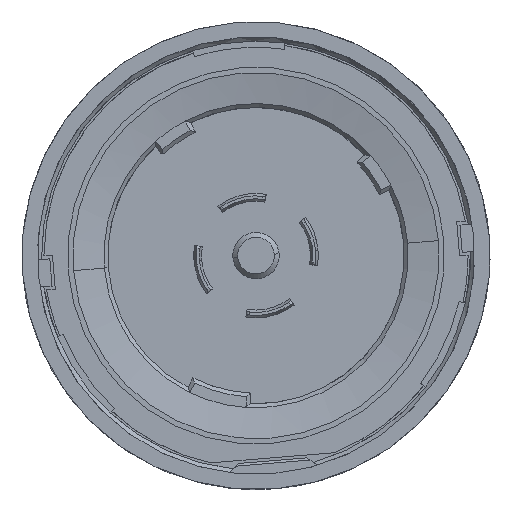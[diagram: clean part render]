
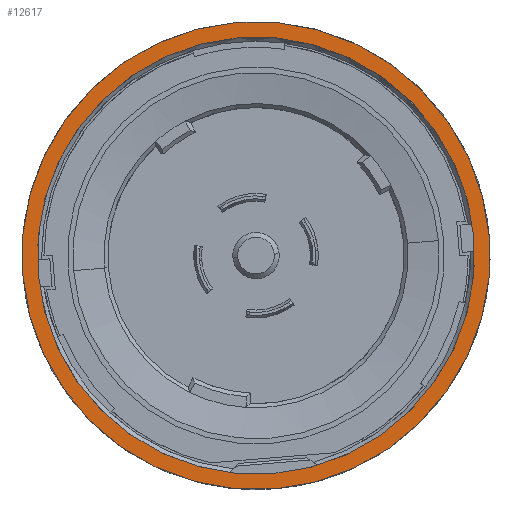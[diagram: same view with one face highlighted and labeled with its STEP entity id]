
A CAD part, front view. The second image highlights one B-rep face of the part: STEP entity #12617.
In plain terms, the highlighted planar face has unit normal (0, -1, 0).
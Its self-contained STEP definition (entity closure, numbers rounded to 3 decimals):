
#448 = VERTEX_POINT ( 'NONE', #11938 ) ;
#878 = CARTESIAN_POINT ( 'NONE',  ( 2.19, -6.4, 43.359 ) ) ;
#930 = DIRECTION ( 'NONE',  ( -0.082, 0., 0.997 ) ) ;
#950 = DIRECTION ( 'NONE',  ( 0., 1., 0. ) ) ;
#1265 = EDGE_LOOP ( 'NONE', ( #13304, #15963 ) ) ;
#1306 = EDGE_CURVE ( 'NONE', #7355, #448, #12338, .T. ) ;
#1336 = AXIS2_PLACEMENT_3D ( 'NONE', #10391, #950, #14605 ) ;
#2789 = VERTEX_POINT ( 'NONE', #7780 ) ;
#2825 = CARTESIAN_POINT ( 'NONE',  ( 2.19, -6.4, 43.359 ) ) ;
#3098 = EDGE_CURVE ( 'NONE', #9785, #2789, #13212, .T. ) ;
#3402 = AXIS2_PLACEMENT_3D ( 'NONE', #3831, #8422, #5706 ) ;
#3831 = CARTESIAN_POINT ( 'NONE',  ( 2.19, -6.4, 43.359 ) ) ;
#4755 = CIRCLE ( 'NONE', #10221, 22.42 ) ;
#4846 = EDGE_CURVE ( 'NONE', #448, #7355, #15302, .T. ) ;
#5706 = DIRECTION ( 'NONE',  ( -0.082, 0., 0.997 ) ) ;
#6236 = DIRECTION ( 'NONE',  ( 0., -1., 0. ) ) ;
#6631 = DIRECTION ( 'NONE',  ( 0., 1., 0. ) ) ;
#6731 = DIRECTION ( 'NONE',  ( -0.082, 0., 0.997 ) ) ;
#7355 = VERTEX_POINT ( 'NONE', #14754 ) ;
#7780 = CARTESIAN_POINT ( 'NONE',  ( 0.352, -6.4, 65.703 ) ) ;
#7894 = EDGE_LOOP ( 'NONE', ( #8206, #12074 ) ) ;
#8206 = ORIENTED_EDGE ( 'NONE', *, *, #14735, .F. ) ;
#8422 = DIRECTION ( 'NONE',  ( 0., 1., 0. ) ) ;
#9785 = VERTEX_POINT ( 'NONE', #13077 ) ;
#10221 = AXIS2_PLACEMENT_3D ( 'NONE', #878, #6236, #13067 ) ;
#10391 = CARTESIAN_POINT ( 'NONE',  ( 2.19, -6.4, 43.359 ) ) ;
#10764 = PLANE ( 'NONE',  #3402 ) ;
#11938 = CARTESIAN_POINT ( 'NONE',  ( 0.222, -6.4, 67.278 ) ) ;
#12074 = ORIENTED_EDGE ( 'NONE', *, *, #3098, .F. ) ;
#12338 = CIRCLE ( 'NONE', #1336, 24. ) ;
#12617 = ADVANCED_FACE ( 'NONE', ( #15393, #15176 ), #10764, .F. ) ;
#13067 = DIRECTION ( 'NONE',  ( -0.082, 0., 0.997 ) ) ;
#13077 = CARTESIAN_POINT ( 'NONE',  ( 4.029, -6.4, 21.014 ) ) ;
#13212 = CIRCLE ( 'NONE', #13678, 22.42 ) ;
#13304 = ORIENTED_EDGE ( 'NONE', *, *, #4846, .F. ) ;
#13454 = CARTESIAN_POINT ( 'NONE',  ( 2.19, -6.4, 43.359 ) ) ;
#13678 = AXIS2_PLACEMENT_3D ( 'NONE', #2825, #16436, #6731 ) ;
#14605 = DIRECTION ( 'NONE',  ( -0.082, 0., 0.997 ) ) ;
#14735 = EDGE_CURVE ( 'NONE', #2789, #9785, #4755, .T. ) ;
#14754 = CARTESIAN_POINT ( 'NONE',  ( 4.159, -6.4, 19.44 ) ) ;
#15176 = FACE_OUTER_BOUND ( 'NONE', #1265, .T. ) ;
#15302 = CIRCLE ( 'NONE', #16220, 24. ) ;
#15393 = FACE_BOUND ( 'NONE', #7894, .T. ) ;
#15963 = ORIENTED_EDGE ( 'NONE', *, *, #1306, .F. ) ;
#16220 = AXIS2_PLACEMENT_3D ( 'NONE', #13454, #6631, #930 ) ;
#16436 = DIRECTION ( 'NONE',  ( 0., -1., 0. ) ) ;
